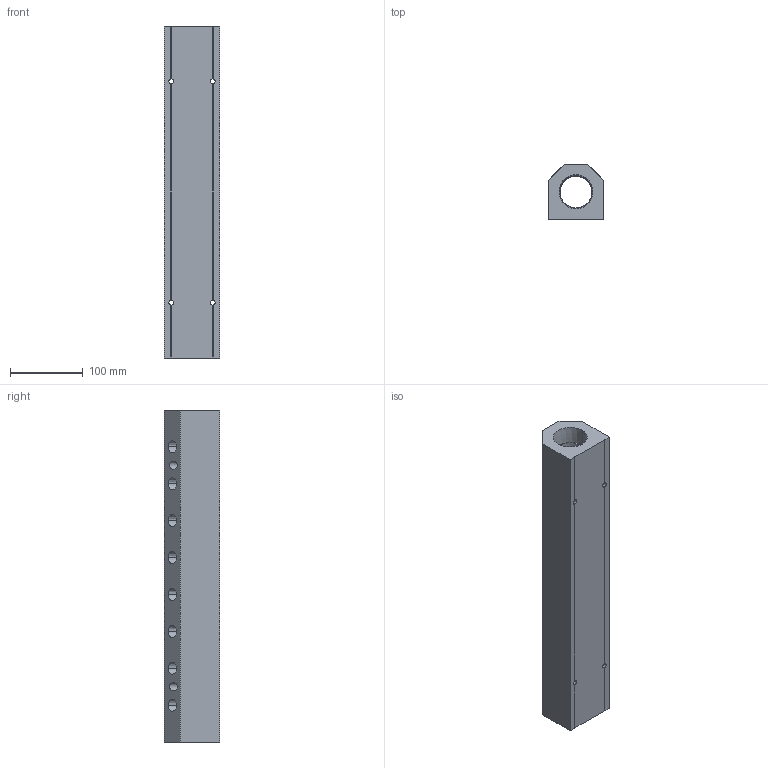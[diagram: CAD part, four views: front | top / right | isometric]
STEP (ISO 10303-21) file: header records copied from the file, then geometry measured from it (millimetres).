
FILE_DESCRIPTION (( 'STEP AP214' ), '1' );
FILE_NAME ('ALM8BCD-N6N24-457R.step', '2022-02-07T07:58:16', ( '' ), ( '' ), 'SwSTEP 2.0', 'SolidWorks 2020', '' );
FILE_SCHEMA (( 'AUTOMOTIVE_DESIGN' ));
Length unit declared in the file: millimetre
Products named in the file (1): ALM8BCD-N6N24-457R
Bounding box: 76.2 x 76.2 x 457 mm (x, y, z)
Volume: 1621997.8 mm3; surface area: 214505 mm2
Topology: 1 solids, 1 shells, 361 faces, 961 edges, 638 vertices
Faces by surface type: plane 220, bspline 71, cone 52, cylinder 18
Entity records: 21277 total; most frequent: CARTESIAN_POINT 9264, ORIENTED_EDGE 1922, DIRECTION 1421, EDGE_CURVE 961, LINE 671, VECTOR 671, VERTEX_POINT 638, EDGE_LOOP 455
